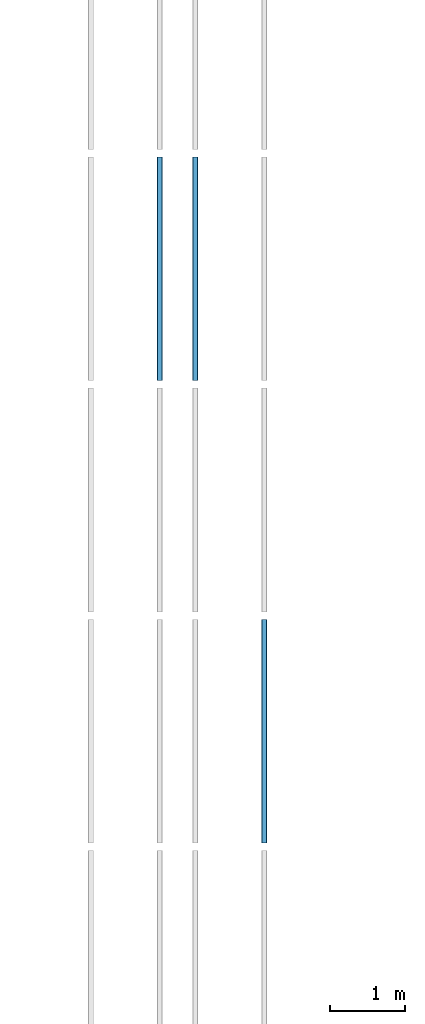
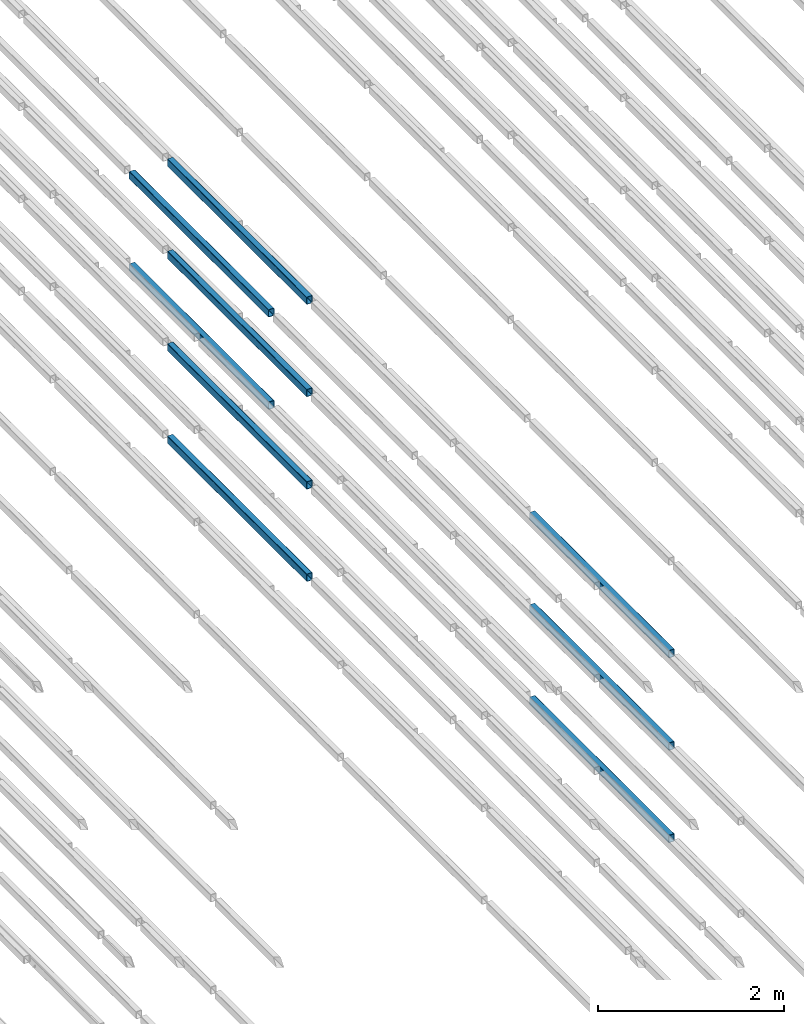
# One storey, part 49 of 290: 9 beams.
"""IFC2X3 building model written with IfcOpenShell, lengths in metres."""

import ifcopenshell
import ifcopenshell.guid

model = None  # the IFC model being written
_history = None  # IfcOwnerHistory: only IFC2X3 demands one
_inside = {}  # id of a spatial element -> (the spatial element, [elements in it])
_under = {}  # id of a project, library or spatial element -> (it, [spatial elements below it])
_declared = {}  # id of a project -> (the project, [libraries it declares])
_typed = {}  # id of a type object -> (the type object, [elements of that type])
_made_of = {}  # id of a material, layer set ... -> (it, [elements and type objects made of it])


def new_model(schema):
    """Start an empty IFC model of exactly this schema.

    Asked for "IFC4X3", IfcOpenShell would pick the latest addendum, in which some entities
    have other attributes; the version numbers below select the first issue.
    IFC2X3 requires an IfcOwnerHistory on every rooted entity: one is made here for all.
    """
    global model, _history
    if schema == "IFC4X3":
        model = ifcopenshell.file(schema_version=(4, 3, 0, 0))
    else:
        model = ifcopenshell.file(schema=schema)
    _inside.clear()
    _under.clear()
    _declared.clear()
    _typed.clear()
    _made_of.clear()
    _history = None
    if model.schema == "IFC2X3":
        org = make("IfcOrganization", Name="unknown")
        user = make(
            "IfcPersonAndOrganization",
            ThePerson=make("IfcPerson", FamilyName="unknown"),
            TheOrganization=org,
        )
        app = make(
            "IfcApplication",
            ApplicationDeveloper=org,
            Version="unknown",
            ApplicationFullName="unknown",
            ApplicationIdentifier="unknown",
        )
        _history = make(
            "IfcOwnerHistory",
            OwningUser=user,
            OwningApplication=app,
            ChangeAction="ADDED",
            CreationDate=0,
        )
    return model


def make(cls, **values):
    """One entity of the class cls with the attributes given. An attribute that is None is left unset."""
    return model.create_entity(
        cls, **{name: value for name, value in values.items() if value is not None}
    )


def entity(cls, *values):
    """Any entity or typed value of the class cls, its attributes in the order of the schema. None: left unset."""
    e = model.create_entity(cls)
    for i, value in enumerate(values):
        if value is not None:
            e[i] = value
    return e


def rooted(cls, **values):
    """An entity with a GlobalId (a new one), such as an element, a storey or a relation."""
    return make(cls, GlobalId=ifcopenshell.guid.new(), OwnerHistory=_history, **values)


def si_unit(unit_type, name, prefix=None):
    """IfcSIUnit, for example si_unit("LENGTHUNIT", "METRE", prefix="MILLI")."""
    return make("IfcSIUnit", UnitType=unit_type, Prefix=prefix, Name=name)


def converted_unit(unit_type, name, factor, base, dimensions=None, offset=None):
    """IfcConversionBasedUnit, such as the inch: factor (a typed value) times the base unit."""
    return make(
        "IfcConversionBasedUnit"
        if offset is None
        else "IfcConversionBasedUnitWithOffset",
        ConversionOffset=offset,
        Dimensions=None
        if dimensions is None
        else entity("IfcDimensionalExponents", *dimensions),
        UnitType=unit_type,
        Name=name,
        ConversionFactor=make(
            "IfcMeasureWithUnit", ValueComponent=factor, UnitComponent=base
        ),
    )


def derived_unit(unit_type, elements):
    """IfcDerivedUnit: a product of units, each with its exponent."""
    return make(
        "IfcDerivedUnit",
        Elements=[
            make("IfcDerivedUnitElement", Unit=unit, Exponent=power)
            for unit, power in elements
        ],
        UnitType=unit_type,
    )


def assignment(units):
    """IfcUnitAssignment: the units of a project."""
    return None if units is None else make("IfcUnitAssignment", Units=units)


def point(xyz):
    """IfcCartesianPoint."""
    return None if xyz is None else make("IfcCartesianPoint", Coordinates=xyz)


def direction(xyz):
    """IfcDirection."""
    return None if xyz is None else make("IfcDirection", DirectionRatios=xyz)


def frame(location, z_axis=None, x_axis=None):
    """IfcAxis2Placement3D, a coordinate frame: its origin and axes. An axis left out is left unset."""
    return make(
        "IfcAxis2Placement3D",
        Location=point(location),
        Axis=direction(z_axis),
        RefDirection=direction(x_axis),
    )


def frame_2d(location, x_axis=None):
    """IfcAxis2Placement2D, a coordinate frame in the plane: its origin and x axis."""
    return make(
        "IfcAxis2Placement2D", Location=point(location), RefDirection=direction(x_axis)
    )


def origin():
    """The frame at (0, 0, 0) with its axes left unset."""
    return frame((0.0, 0.0, 0.0))


def place(relative_to, where):
    """IfcLocalPlacement: puts the frame where relative to a parent placement (None: the world)."""
    return make(
        "IfcLocalPlacement", PlacementRelTo=relative_to, RelativePlacement=where
    )


def context(
    kind, dimensions, precision=None, world=None, true_north=None, identifier=None
):
    """IfcGeometricRepresentationContext, for example the 3D "Model" context."""
    return make(
        "IfcGeometricRepresentationContext",
        ContextIdentifier=identifier,
        ContextType=kind,
        CoordinateSpaceDimension=dimensions,
        Precision=precision,
        WorldCoordinateSystem=world,
        TrueNorth=true_north,
    )


def subcontext(parent, identifier, kind, view, scale=None):
    """IfcGeometricRepresentationSubContext, for example "Body" below "Model"."""
    return make(
        "IfcGeometricRepresentationSubContext",
        ContextIdentifier=identifier,
        ContextType=kind,
        ParentContext=parent,
        TargetScale=scale,
        TargetView=view,
    )


def project(units=None, contexts=None):
    """IfcProject with its units and contexts."""
    return rooted(
        "IfcProject",
        Name="project",
        RepresentationContexts=contexts,
        UnitsInContext=assignment(units),
    )


def spatial(cls, under=None, at=None, **own):
    """A site, building, storey or space (cls), placed at a placement, below another one or the project."""
    s = rooted(cls, ObjectPlacement=at, **own)
    if under is not None:
        _under.setdefault(under.id(), (under, []))[1].append(s)
    return s


def polyline(points):
    """IfcPolyline through the points."""
    return make("IfcPolyline", Points=[point(p) for p in points])


def circle_curve(where, radius):
    """IfcCircle in the frame where."""
    return make("IfcCircle", Position=where, Radius=radius)


def parameter(value):
    """IfcParameterValue: where a trimmed curve begins or ends, as a parameter of its basis curve."""
    return model.create_entity("IfcParameterValue", value)


def trimmed(basis, trim1, trim2, sense, master):
    """IfcTrimmedCurve: the piece of a basis curve between two trims."""
    return make(
        "IfcTrimmedCurve",
        BasisCurve=basis,
        Trim1=trim1,
        Trim2=trim2,
        SenseAgreement=sense,
        MasterRepresentation=master,
    )


def segment(curve, same_sense, transition):
    """IfcCompositeCurveSegment."""
    return make(
        "IfcCompositeCurveSegment",
        Transition=transition,
        SameSense=same_sense,
        ParentCurve=curve,
    )


def composite_curve(segments, self_intersect=None):
    """IfcCompositeCurve: segments joined end to end."""
    return make("IfcCompositeCurve", Segments=segments, SelfIntersect=self_intersect)


def outline(outer, holes=None, kind="AREA"):
    """IfcArbitraryClosedProfileDef: a profile drawn as a closed curve; with holes, ...WithVoids."""
    if holes is None:
        return make("IfcArbitraryClosedProfileDef", ProfileType=kind, OuterCurve=outer)
    return make(
        "IfcArbitraryProfileDefWithVoids",
        ProfileType=kind,
        OuterCurve=outer,
        InnerCurves=holes,
    )


def extrude(swept, where, along, depth):
    """IfcExtrudedAreaSolid: the profile swept, set in the frame where, extruded along a direction by depth."""
    return make(
        "IfcExtrudedAreaSolid",
        SweptArea=swept,
        Position=where,
        ExtrudedDirection=direction(along),
        Depth=depth,
    )


def shape(context_of_items, identifier, shape_type, items):
    """IfcShapeRepresentation: the items that make up one representation, for example the "Body"."""
    return make(
        "IfcShapeRepresentation",
        ContextOfItems=context_of_items,
        RepresentationIdentifier=identifier,
        RepresentationType=shape_type,
        Items=items,
    )


def material(Name=None, Category=None):
    """IfcMaterial."""
    return make("IfcMaterial", Name=Name, Category=Category)


def made_of(thing, what):
    """Note that an element or type object is made of a material, layer set ...; save() writes the relation."""
    if what is not None:
        _made_of.setdefault(what.id(), (what, []))[1].append(thing)
    return thing


def type_object(cls, material=None, **own):
    """A type object (cls), such as IfcWallType, which elements share."""
    return made_of(rooted(cls, **own), material)


def element(
    cls,
    number,
    at=None,
    inside=None,
    cuts=None,
    type_object=None,
    material=None,
    context=None,
    identifier="Body",
    shape_type=None,
    held_by="IfcProductDefinitionShape",
    body=None,
    shapes=None,
    **own,
):
    """One element of the class cls, such as IfcWall. Its Tag is "e" and its number.

    at: its placement. inside: the storey or other place that contains it. cuts: it is an
    opening in that element (IfcRelVoidsElement). A single representation is given by context,
    identifier, shape_type and body (its items); several are given by shapes. held_by: the class
    of the entity that holds the representations. save() writes the other relations.
    """
    e = rooted(cls, Tag="e%d" % number, ObjectPlacement=at, **own)
    if body is not None:
        shapes = [shape(context, identifier, shape_type, body)]
    if shapes is not None:
        e.Representation = make(held_by, Representations=shapes)
    if inside is not None:
        _inside.setdefault(inside.id(), (inside, []))[1].append(e)
    if cuts is not None:
        rooted(
            "IfcRelVoidsElement", RelatingBuildingElement=cuts, RelatedOpeningElement=e
        )
    if type_object is not None:
        _typed.setdefault(type_object.id(), (type_object, []))[1].append(e)
    return made_of(e, material)


def aggregate(whole, parts):
    """IfcRelAggregates: a whole, such as a stair, and the parts it consists of."""
    return rooted("IfcRelAggregates", RelatingObject=whole, RelatedObjects=parts)


def save(model, path):
    """Write the relations noted so far, then the file.

    IfcRelAggregates (storeys below a building ...), IfcRelContainedInSpatialStructure (elements
    in a storey), IfcRelDefinesByType, IfcRelAssociatesMaterial and IfcRelDeclares: one each for
    every whole, place, type object, material and project.
    """
    for whole, parts in _under.values():
        aggregate(whole, parts)
    for where, things in _inside.values():
        rooted(
            "IfcRelContainedInSpatialStructure",
            RelatedElements=things,
            RelatingStructure=where,
        )
    for kind, things in _typed.values():
        rooted("IfcRelDefinesByType", RelatedObjects=things, RelatingType=kind)
    for what, things in _made_of.values():
        rooted("IfcRelAssociatesMaterial", RelatedObjects=things, RelatingMaterial=what)
    for by, libraries in _declared.values():
        rooted("IfcRelDeclares", RelatingContext=by, RelatedDefinitions=libraries)
    model.write(path)


model = new_model("IFC2X3")

# Units and contexts
model_context = context("Model", 3, precision=1e-05, world=origin(), true_north=direction((6.12303176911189e-17, 1.0)))
body_context = subcontext(model_context, "Body", "Model", "MODEL_VIEW")
ifc_project = project(units=[si_unit("LENGTHUNIT", "METRE"), si_unit("AREAUNIT", "SQUARE_METRE"), si_unit("VOLUMEUNIT", "CUBIC_METRE"), converted_unit("PLANEANGLEUNIT", "DEGREE", entity("IfcRatioMeasure", 0.0174532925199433), si_unit("PLANEANGLEUNIT", "RADIAN"), dimensions=[0, 0, 0, 0, 0, 0, 0]), si_unit("MASSUNIT", "GRAM", prefix="KILO"), derived_unit("MASSDENSITYUNIT", [(si_unit("MASSUNIT", "GRAM", prefix="KILO"), 1), (si_unit("LENGTHUNIT", "METRE"), -3)]), derived_unit("MOMENTOFINERTIAUNIT", [(si_unit("LENGTHUNIT", "METRE"), 4)]), si_unit("TIMEUNIT", "SECOND"), si_unit("FREQUENCYUNIT", "HERTZ"), si_unit("THERMODYNAMICTEMPERATUREUNIT", "DEGREE_CELSIUS"), derived_unit("THERMALTRANSMITTANCEUNIT", [(si_unit("MASSUNIT", "GRAM", prefix="KILO"), 1), (si_unit("THERMODYNAMICTEMPERATUREUNIT", "KELVIN"), -1), (si_unit("TIMEUNIT", "SECOND"), -3)]), derived_unit("VOLUMETRICFLOWRATEUNIT", [(si_unit("LENGTHUNIT", "METRE"), 3), (si_unit("TIMEUNIT", "SECOND"), -1)]), si_unit("ELECTRICCURRENTUNIT", "AMPERE"), si_unit("ELECTRICVOLTAGEUNIT", "VOLT"), si_unit("POWERUNIT", "WATT"), si_unit("FORCEUNIT", "NEWTON", prefix="KILO"), si_unit("ILLUMINANCEUNIT", "LUX"), si_unit("LUMINOUSFLUXUNIT", "LUMEN"), si_unit("LUMINOUSINTENSITYUNIT", "CANDELA"), derived_unit("USERDEFINED", [(si_unit("MASSUNIT", "GRAM", prefix="KILO"), -1), (si_unit("LENGTHUNIT", "METRE"), -2), (si_unit("TIMEUNIT", "SECOND"), 3), (si_unit("LUMINOUSFLUXUNIT", "LUMEN"), 1)]), derived_unit("LINEARVELOCITYUNIT", [(si_unit("LENGTHUNIT", "METRE"), 1), (si_unit("TIMEUNIT", "SECOND"), -1)]), si_unit("PRESSUREUNIT", "PASCAL"), derived_unit("USERDEFINED", [(si_unit("LENGTHUNIT", "METRE"), -2), (si_unit("MASSUNIT", "GRAM", prefix="KILO"), 1), (si_unit("TIMEUNIT", "SECOND"), -2)]), derived_unit("LINEARFORCEUNIT", [(si_unit("MASSUNIT", "GRAM", prefix="KILO"), 1), (si_unit("LENGTHUNIT", "METRE"), 1), (si_unit("TIMEUNIT", "SECOND"), -2), (si_unit("LENGTHUNIT", "METRE"), -1)]), derived_unit("PLANARFORCEUNIT", [(si_unit("MASSUNIT", "GRAM", prefix="KILO"), 1), (si_unit("LENGTHUNIT", "METRE"), 1), (si_unit("TIMEUNIT", "SECOND"), -2), (si_unit("LENGTHUNIT", "METRE"), -2)])], contexts=[model_context])

# Site, building, storey
site_placement = place(None, origin())
site = spatial("IfcSite", under=ifc_project, at=site_placement, Name="Default", CompositionType="ELEMENT")
building_placement = place(site_placement, origin())
building = spatial("IfcBuilding", under=site, at=building_placement, CompositionType="ELEMENT")
storey_placement = place(building_placement, frame((0.0, 0.0, 4.0)))
storey = spatial("IfcBuildingStorey", under=building, at=storey_placement, Name="01_OG", CompositionType="ELEMENT", Elevation=4.0)

# Beams
ifc_material = material(Name="Metall - Baustahl S235 blau")
beam_type = type_object("IfcBeamType", Name="RHS Träger (EN 10219-2):RHS 100 x 75 x 5", PredefinedType="NOTDEFINED")
beam_1_placement = place(storey_placement, frame((-194.165111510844, 30.248088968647, -1.2), z_axis=(0.0, 0.0, 1.0), x_axis=(0.0, 1.0, 0.0)))
element("IfcBeam", 1, at=beam_1_placement, inside=storey, type_object=beam_type, material=ifc_material, Name="RHS Träger (EN 10219-2):RHS 100 x 75 x 5", ObjectType="RHS Träger (EN 10219-2):RHS 100 x 75 x 5", context=body_context, shape_type="SweptSolid", body=[
    extrude(outline(composite_curve([segment(polyline([(-0.0400000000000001, -0.0374999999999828), (0.0400000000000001, -0.0374999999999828)]), True, "CONTINUOUS"), segment(trimmed(circle_curve(frame_2d((0.0400000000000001, -0.0274999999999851), x_axis=(0.0, 1.0)), 0.01), [parameter(180.0)], [parameter(270.0)], True, "PARAMETER"), True, "CONTINUOUS"), segment(polyline([(0.05, -0.0274999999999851), (0.05, 0.0274999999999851)]), True, "CONTINUOUS"), segment(trimmed(circle_curve(frame_2d((0.0400000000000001, 0.0274999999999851), x_axis=(0.0, 1.0)), 0.01), [parameter(270.0)], [parameter(4.07110999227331e-13)], True, "PARAMETER"), True, "CONTINUOUS"), segment(polyline([(0.0400000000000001, 0.0375000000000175), (-0.0400000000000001, 0.0375000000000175)]), True, "CONTINUOUS"), segment(trimmed(circle_curve(frame_2d((-0.0400000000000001, 0.0274999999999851), x_axis=(0.0, 1.0)), 0.01), [parameter(360.0)], [parameter(90.0000000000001)], True, "PARAMETER"), True, "CONTINUOUS"), segment(polyline([(-0.05, 0.0274999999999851), (-0.05, -0.0274999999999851)]), True, "CONTINUOUS"), segment(trimmed(circle_curve(frame_2d((-0.0400000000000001, -0.0274999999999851), x_axis=(0.0, 1.0)), 0.01), [parameter(90.0000000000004)], [parameter(180.0)], True, "PARAMETER"), True, "CONTINUOUS")], self_intersect=False), holes=[composite_curve([segment(trimmed(circle_curve(frame_2d((-0.0400000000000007, 0.0274999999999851), x_axis=(0.0, 1.0)), 0.005), [parameter(360.0)], [parameter(89.9999999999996)], True, "PARAMETER"), False, "CONTINUOUS"), segment(polyline([(-0.0400000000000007, 0.0325000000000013), (0.039999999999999, 0.0325000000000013)]), True, "CONTINUOUS"), segment(trimmed(circle_curve(frame_2d((0.039999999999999, 0.0274999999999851), x_axis=(0.0, 1.0)), 0.005), [parameter(270.0)], [parameter(0.0)], True, "PARAMETER"), False, "CONTINUOUS"), segment(polyline([(0.044999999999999, 0.0274999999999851), (0.044999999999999, -0.0274999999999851)]), True, "CONTINUOUS"), segment(trimmed(circle_curve(frame_2d((0.039999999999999, -0.0274999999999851), x_axis=(0.0, 1.0)), 0.005), [parameter(180.0)], [parameter(269.999999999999)], True, "PARAMETER"), False, "CONTINUOUS"), segment(polyline([(0.039999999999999, -0.0325000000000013), (-0.0400000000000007, -0.0325000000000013)]), True, "CONTINUOUS"), segment(trimmed(circle_curve(frame_2d((-0.0400000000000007, -0.0274999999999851), x_axis=(0.0, 1.0)), 0.005), [parameter(90.0000000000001)], [parameter(180.0)], True, "PARAMETER"), False, "CONTINUOUS"), segment(polyline([(-0.0450000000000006, -0.0274999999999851), (-0.0450000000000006, 0.0274999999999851)]), True, "CONTINUOUS")], self_intersect=False)]), frame((9.99999999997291e-05, -0.0375000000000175, -0.0500000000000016), z_axis=(1.0, 0.0, 0.0), x_axis=(0.0, 0.0, -1.0)), (0.0, 0.0, 1.0), 2.9998),
])
beam_2_placement = place(storey_placement, frame((-194.165111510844, 30.248088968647, 0.0150000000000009), z_axis=(0.0, 0.0, 1.0), x_axis=(0.0, 1.0, 0.0)))
element("IfcBeam", 2, at=beam_2_placement, inside=storey, type_object=beam_type, material=ifc_material, Name="RHS Träger (EN 10219-2):RHS 100 x 75 x 5", ObjectType="RHS Träger (EN 10219-2):RHS 100 x 75 x 5", context=body_context, shape_type="SweptSolid", body=[
    extrude(outline(composite_curve([segment(polyline([(-0.0400000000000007, -0.0374999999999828), (0.0399999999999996, -0.0374999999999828)]), True, "CONTINUOUS"), segment(trimmed(circle_curve(frame_2d((0.0399999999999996, -0.0274999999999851), x_axis=(0.0, 1.0)), 0.01), [parameter(180.0)], [parameter(270.0)], True, "PARAMETER"), True, "CONTINUOUS"), segment(polyline([(0.0499999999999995, -0.0274999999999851), (0.0499999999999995, 0.0274999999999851)]), True, "CONTINUOUS"), segment(trimmed(circle_curve(frame_2d((0.0399999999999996, 0.0274999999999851), x_axis=(0.0, 1.0)), 0.01), [parameter(270.0)], [parameter(4.07110999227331e-13)], True, "PARAMETER"), True, "CONTINUOUS"), segment(polyline([(0.0399999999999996, 0.0375000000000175), (-0.0400000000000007, 0.0375000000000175)]), True, "CONTINUOUS"), segment(trimmed(circle_curve(frame_2d((-0.0400000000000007, 0.0274999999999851), x_axis=(0.0, 1.0)), 0.01), [parameter(360.0)], [parameter(90.0000000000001)], True, "PARAMETER"), True, "CONTINUOUS"), segment(polyline([(-0.0500000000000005, 0.0274999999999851), (-0.0500000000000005, -0.0274999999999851)]), True, "CONTINUOUS"), segment(trimmed(circle_curve(frame_2d((-0.0400000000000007, -0.0274999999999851), x_axis=(0.0, 1.0)), 0.01), [parameter(90.0000000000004)], [parameter(180.0)], True, "PARAMETER"), True, "CONTINUOUS")], self_intersect=False), holes=[composite_curve([segment(trimmed(circle_curve(frame_2d((-0.0400000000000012, 0.0274999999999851), x_axis=(0.0, 1.0)), 0.005), [parameter(360.0)], [parameter(89.9999999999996)], True, "PARAMETER"), False, "CONTINUOUS"), segment(polyline([(-0.0400000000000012, 0.0325000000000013), (0.0399999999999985, 0.0325000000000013)]), True, "CONTINUOUS"), segment(trimmed(circle_curve(frame_2d((0.0399999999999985, 0.0274999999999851), x_axis=(0.0, 1.0)), 0.005), [parameter(270.0)], [parameter(0.0)], True, "PARAMETER"), False, "CONTINUOUS"), segment(polyline([(0.0449999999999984, 0.0274999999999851), (0.0449999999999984, -0.0274999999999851)]), True, "CONTINUOUS"), segment(trimmed(circle_curve(frame_2d((0.0399999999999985, -0.0274999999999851), x_axis=(0.0, 1.0)), 0.005), [parameter(180.0)], [parameter(269.999999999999)], True, "PARAMETER"), False, "CONTINUOUS"), segment(polyline([(0.0399999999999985, -0.0325000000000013), (-0.0400000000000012, -0.0325000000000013)]), True, "CONTINUOUS"), segment(trimmed(circle_curve(frame_2d((-0.0400000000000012, -0.0274999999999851), x_axis=(0.0, 1.0)), 0.005), [parameter(90.0000000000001)], [parameter(180.0)], True, "PARAMETER"), False, "CONTINUOUS"), segment(polyline([(-0.0450000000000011, -0.0274999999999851), (-0.0450000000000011, 0.0274999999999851)]), True, "CONTINUOUS")], self_intersect=False)]), frame((9.99999999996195e-05, -0.0375000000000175, -0.0500000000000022), z_axis=(1.0, 0.0, 0.0), x_axis=(0.0, 0.0, -1.0)), (0.0, 0.0, 1.0), 2.9998),
])
beam_3_placement = place(storey_placement, frame((-194.165111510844, 30.248088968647, 1.23), z_axis=(0.0, 0.0, 1.0), x_axis=(0.0, 1.0, 0.0)))
element("IfcBeam", 3, at=beam_3_placement, inside=storey, type_object=beam_type, material=ifc_material, Name="RHS Träger (EN 10219-2):RHS 100 x 75 x 5", ObjectType="RHS Träger (EN 10219-2):RHS 100 x 75 x 5", context=body_context, shape_type="SweptSolid", body=[
    extrude(outline(composite_curve([segment(polyline([(-0.0399999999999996, -0.0374999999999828), (0.0399999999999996, -0.0374999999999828)]), True, "CONTINUOUS"), segment(trimmed(circle_curve(frame_2d((0.0399999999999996, -0.0274999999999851), x_axis=(0.0, 1.0)), 0.01), [parameter(180.0)], [parameter(270.0)], True, "PARAMETER"), True, "CONTINUOUS"), segment(polyline([(0.0500000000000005, -0.0274999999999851), (0.0500000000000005, 0.0274999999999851)]), True, "CONTINUOUS"), segment(trimmed(circle_curve(frame_2d((0.0399999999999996, 0.0274999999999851), x_axis=(0.0, 1.0)), 0.01), [parameter(270.0)], [parameter(4.07110999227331e-13)], True, "PARAMETER"), True, "CONTINUOUS"), segment(polyline([(0.0399999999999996, 0.0375000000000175), (-0.0399999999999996, 0.0375000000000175)]), True, "CONTINUOUS"), segment(trimmed(circle_curve(frame_2d((-0.0399999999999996, 0.0274999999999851), x_axis=(0.0, 1.0)), 0.01), [parameter(360.0)], [parameter(90.0000000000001)], True, "PARAMETER"), True, "CONTINUOUS"), segment(polyline([(-0.0499999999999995, 0.0274999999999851), (-0.0499999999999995, -0.0274999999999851)]), True, "CONTINUOUS"), segment(trimmed(circle_curve(frame_2d((-0.0399999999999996, -0.0274999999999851), x_axis=(0.0, 1.0)), 0.01), [parameter(90.0000000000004)], [parameter(180.0)], True, "PARAMETER"), True, "CONTINUOUS")], self_intersect=False), holes=[composite_curve([segment(trimmed(circle_curve(frame_2d((-0.0400000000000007, 0.0274999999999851), x_axis=(0.0, 1.0)), 0.005), [parameter(360.0)], [parameter(89.9999999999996)], True, "PARAMETER"), False, "CONTINUOUS"), segment(polyline([(-0.0400000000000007, 0.0325000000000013), (0.0399999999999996, 0.0325000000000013)]), True, "CONTINUOUS"), segment(trimmed(circle_curve(frame_2d((0.0399999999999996, 0.0274999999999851), x_axis=(0.0, 1.0)), 0.005), [parameter(270.0)], [parameter(0.0)], True, "PARAMETER"), False, "CONTINUOUS"), segment(polyline([(0.0449999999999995, 0.0274999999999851), (0.0449999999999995, -0.0274999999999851)]), True, "CONTINUOUS"), segment(trimmed(circle_curve(frame_2d((0.0399999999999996, -0.0274999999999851), x_axis=(0.0, 1.0)), 0.005), [parameter(180.0)], [parameter(269.999999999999)], True, "PARAMETER"), False, "CONTINUOUS"), segment(polyline([(0.0399999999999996, -0.0325000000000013), (-0.0400000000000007, -0.0325000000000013)]), True, "CONTINUOUS"), segment(trimmed(circle_curve(frame_2d((-0.0400000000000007, -0.0274999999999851), x_axis=(0.0, 1.0)), 0.005), [parameter(90.0000000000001)], [parameter(180.0)], True, "PARAMETER"), False, "CONTINUOUS"), segment(polyline([(-0.0450000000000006, -0.0274999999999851), (-0.0450000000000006, 0.0274999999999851)]), True, "CONTINUOUS")], self_intersect=False)]), frame((9.99999999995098e-05, -0.0375000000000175, -0.0500000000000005), z_axis=(1.0, 0.0, 0.0), x_axis=(0.0, 0.0, -1.0)), (0.0, 0.0, 1.0), 2.9998),
])
beam_4_placement = place(storey_placement, frame((-195.565111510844, 36.448088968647, 1.23), z_axis=(0.0, 0.0, 1.0), x_axis=(0.0, 1.0, 0.0)))
element("IfcBeam", 4, at=beam_4_placement, inside=storey, type_object=beam_type, material=ifc_material, Name="RHS Träger (EN 10219-2):RHS 100 x 75 x 5", ObjectType="RHS Träger (EN 10219-2):RHS 100 x 75 x 5", context=body_context, shape_type="SweptSolid", body=[
    extrude(outline(composite_curve([segment(polyline([(-0.0399999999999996, -0.0374999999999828), (0.0399999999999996, -0.0374999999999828)]), True, "CONTINUOUS"), segment(trimmed(circle_curve(frame_2d((0.0399999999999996, -0.0274999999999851), x_axis=(0.0, 1.0)), 0.01), [parameter(180.0)], [parameter(270.0)], True, "PARAMETER"), True, "CONTINUOUS"), segment(polyline([(0.0500000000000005, -0.0274999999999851), (0.0500000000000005, 0.0274999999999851)]), True, "CONTINUOUS"), segment(trimmed(circle_curve(frame_2d((0.0399999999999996, 0.0274999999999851), x_axis=(0.0, 1.0)), 0.01), [parameter(270.0)], [parameter(4.07110999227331e-13)], True, "PARAMETER"), True, "CONTINUOUS"), segment(polyline([(0.0399999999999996, 0.0375000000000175), (-0.0399999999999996, 0.0375000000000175)]), True, "CONTINUOUS"), segment(trimmed(circle_curve(frame_2d((-0.0399999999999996, 0.0274999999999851), x_axis=(0.0, 1.0)), 0.01), [parameter(360.0)], [parameter(90.0000000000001)], True, "PARAMETER"), True, "CONTINUOUS"), segment(polyline([(-0.0499999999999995, 0.0274999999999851), (-0.0499999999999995, -0.0274999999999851)]), True, "CONTINUOUS"), segment(trimmed(circle_curve(frame_2d((-0.0399999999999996, -0.0274999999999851), x_axis=(0.0, 1.0)), 0.01), [parameter(90.0000000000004)], [parameter(180.0)], True, "PARAMETER"), True, "CONTINUOUS")], self_intersect=False), holes=[composite_curve([segment(trimmed(circle_curve(frame_2d((-0.0400000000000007, 0.0274999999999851), x_axis=(0.0, 1.0)), 0.005), [parameter(360.0)], [parameter(89.9999999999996)], True, "PARAMETER"), False, "CONTINUOUS"), segment(polyline([(-0.0400000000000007, 0.0325000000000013), (0.0399999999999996, 0.0325000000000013)]), True, "CONTINUOUS"), segment(trimmed(circle_curve(frame_2d((0.0399999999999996, 0.0274999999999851), x_axis=(0.0, 1.0)), 0.005), [parameter(270.0)], [parameter(0.0)], True, "PARAMETER"), False, "CONTINUOUS"), segment(polyline([(0.0449999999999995, 0.0274999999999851), (0.0449999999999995, -0.0274999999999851)]), True, "CONTINUOUS"), segment(trimmed(circle_curve(frame_2d((0.0399999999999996, -0.0274999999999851), x_axis=(0.0, 1.0)), 0.005), [parameter(180.0)], [parameter(269.999999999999)], True, "PARAMETER"), False, "CONTINUOUS"), segment(polyline([(0.0399999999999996, -0.0325000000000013), (-0.0400000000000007, -0.0325000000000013)]), True, "CONTINUOUS"), segment(trimmed(circle_curve(frame_2d((-0.0400000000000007, -0.0274999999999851), x_axis=(0.0, 1.0)), 0.005), [parameter(90.0000000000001)], [parameter(180.0)], True, "PARAMETER"), False, "CONTINUOUS"), segment(polyline([(-0.0450000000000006, -0.0274999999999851), (-0.0450000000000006, 0.0274999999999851)]), True, "CONTINUOUS")], self_intersect=False)]), frame((0.000100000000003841, -0.0375000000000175, -0.0500000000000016), z_axis=(1.0, 0.0, 0.0), x_axis=(0.0, 0.0, -1.0)), (0.0, 0.0, 1.0), 2.9998),
])
beam_5_placement = place(storey_placement, frame((-195.565111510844, 36.448088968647, 2.445), z_axis=(0.0, 0.0, 1.0), x_axis=(0.0, 1.0, 0.0)))
element("IfcBeam", 5, at=beam_5_placement, inside=storey, type_object=beam_type, material=ifc_material, Name="RHS Träger (EN 10219-2):RHS 100 x 75 x 5", ObjectType="RHS Träger (EN 10219-2):RHS 100 x 75 x 5", context=body_context, shape_type="SweptSolid", body=[
    extrude(outline(composite_curve([segment(polyline([(-0.0399999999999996, -0.0374999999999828), (0.0399999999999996, -0.0374999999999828)]), True, "CONTINUOUS"), segment(trimmed(circle_curve(frame_2d((0.0399999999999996, -0.0274999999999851), x_axis=(0.0, 1.0)), 0.01), [parameter(180.0)], [parameter(270.0)], True, "PARAMETER"), True, "CONTINUOUS"), segment(polyline([(0.0500000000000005, -0.0274999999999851), (0.0500000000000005, 0.0274999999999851)]), True, "CONTINUOUS"), segment(trimmed(circle_curve(frame_2d((0.0399999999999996, 0.0274999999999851), x_axis=(0.0, 1.0)), 0.01), [parameter(270.0)], [parameter(4.07110999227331e-13)], True, "PARAMETER"), True, "CONTINUOUS"), segment(polyline([(0.0399999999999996, 0.0375000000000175), (-0.0399999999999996, 0.0375000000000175)]), True, "CONTINUOUS"), segment(trimmed(circle_curve(frame_2d((-0.0399999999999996, 0.0274999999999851), x_axis=(0.0, 1.0)), 0.01), [parameter(360.0)], [parameter(90.0000000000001)], True, "PARAMETER"), True, "CONTINUOUS"), segment(polyline([(-0.0499999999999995, 0.0274999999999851), (-0.0499999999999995, -0.0274999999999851)]), True, "CONTINUOUS"), segment(trimmed(circle_curve(frame_2d((-0.0399999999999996, -0.0274999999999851), x_axis=(0.0, 1.0)), 0.01), [parameter(90.0000000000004)], [parameter(180.0)], True, "PARAMETER"), True, "CONTINUOUS")], self_intersect=False), holes=[composite_curve([segment(trimmed(circle_curve(frame_2d((-0.0400000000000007, 0.0274999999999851), x_axis=(0.0, 1.0)), 0.005), [parameter(360.0)], [parameter(89.9999999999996)], True, "PARAMETER"), False, "CONTINUOUS"), segment(polyline([(-0.0400000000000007, 0.0325000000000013), (0.0399999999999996, 0.0325000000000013)]), True, "CONTINUOUS"), segment(trimmed(circle_curve(frame_2d((0.0399999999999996, 0.0274999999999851), x_axis=(0.0, 1.0)), 0.005), [parameter(270.0)], [parameter(0.0)], True, "PARAMETER"), False, "CONTINUOUS"), segment(polyline([(0.0449999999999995, 0.0274999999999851), (0.0449999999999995, -0.0274999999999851)]), True, "CONTINUOUS"), segment(trimmed(circle_curve(frame_2d((0.0399999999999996, -0.0274999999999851), x_axis=(0.0, 1.0)), 0.005), [parameter(180.0)], [parameter(269.999999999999)], True, "PARAMETER"), False, "CONTINUOUS"), segment(polyline([(0.0399999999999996, -0.0325000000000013), (-0.0400000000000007, -0.0325000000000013)]), True, "CONTINUOUS"), segment(trimmed(circle_curve(frame_2d((-0.0400000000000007, -0.0274999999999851), x_axis=(0.0, 1.0)), 0.005), [parameter(90.0000000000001)], [parameter(180.0)], True, "PARAMETER"), False, "CONTINUOUS"), segment(polyline([(-0.0450000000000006, -0.0274999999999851), (-0.0450000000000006, 0.0274999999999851)]), True, "CONTINUOUS")], self_intersect=False)]), frame((0.000100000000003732, -0.0375000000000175, -0.0500000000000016), z_axis=(1.0, 0.0, 0.0), x_axis=(0.0, 0.0, -1.0)), (0.0, 0.0, 1.0), 2.9998),
])
beam_6_placement = place(storey_placement, frame((-195.015111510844, 36.448088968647, -1.2), z_axis=(0.0, 0.0, 1.0), x_axis=(0.0, 1.0, 0.0)))
element("IfcBeam", 6, at=beam_6_placement, inside=storey, type_object=beam_type, material=ifc_material, Name="RHS Träger (EN 10219-2):RHS 100 x 75 x 5", ObjectType="RHS Träger (EN 10219-2):RHS 100 x 75 x 5", context=body_context, shape_type="SweptSolid", body=[
    extrude(outline(composite_curve([segment(trimmed(circle_curve(frame_2d((-0.0275000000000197, -0.0400000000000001), x_axis=(1.0, 0.0)), 0.01), [parameter(180.0)], [parameter(270.0)], True, "PARAMETER"), True, "CONTINUOUS"), segment(polyline([(-0.0275000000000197, -0.05), (0.0274999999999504, -0.05)]), True, "CONTINUOUS"), segment(trimmed(circle_curve(frame_2d((0.0274999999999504, -0.0400000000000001), x_axis=(1.0, 0.0)), 0.01), [parameter(270.0)], [parameter(5.08888749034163e-14)], True, "PARAMETER"), True, "CONTINUOUS"), segment(polyline([(0.0374999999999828, -0.0400000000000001), (0.0374999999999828, 0.0400000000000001)]), True, "CONTINUOUS"), segment(trimmed(circle_curve(frame_2d((0.0274999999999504, 0.0400000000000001), x_axis=(1.0, 0.0)), 0.01), [parameter(360.0)], [parameter(89.9999999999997)], True, "PARAMETER"), True, "CONTINUOUS"), segment(polyline([(0.0274999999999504, 0.05), (-0.0275000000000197, 0.05)]), True, "CONTINUOUS"), segment(trimmed(circle_curve(frame_2d((-0.0275000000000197, 0.0400000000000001), x_axis=(1.0, 0.0)), 0.01), [parameter(90.0000000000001)], [parameter(180.0)], True, "PARAMETER"), True, "CONTINUOUS"), segment(polyline([(-0.0375000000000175, 0.0400000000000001), (-0.0375000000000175, -0.0400000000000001)]), True, "CONTINUOUS")], self_intersect=False), holes=[composite_curve([segment(polyline([(0.0274999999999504, -0.0450000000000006), (-0.0275000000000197, -0.0450000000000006)]), True, "CONTINUOUS"), segment(trimmed(circle_curve(frame_2d((-0.0275000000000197, -0.0400000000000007), x_axis=(1.0, 0.0)), 0.005), [parameter(180.0)], [parameter(270.0)], True, "PARAMETER"), False, "CONTINUOUS"), segment(polyline([(-0.0325000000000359, -0.0400000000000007), (-0.0325000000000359, 0.039999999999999)]), True, "CONTINUOUS"), segment(trimmed(circle_curve(frame_2d((-0.0275000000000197, 0.039999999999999), x_axis=(1.0, 0.0)), 0.005), [parameter(90.0000000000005)], [parameter(180.0)], True, "PARAMETER"), False, "CONTINUOUS"), segment(polyline([(-0.0275000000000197, 0.044999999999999), (0.0274999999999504, 0.044999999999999)]), True, "CONTINUOUS"), segment(trimmed(circle_curve(frame_2d((0.0274999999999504, 0.039999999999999), x_axis=(1.0, 0.0)), 0.005), [parameter(0.0)], [parameter(90.0000000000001)], True, "PARAMETER"), False, "CONTINUOUS"), segment(polyline([(0.0324999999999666, 0.039999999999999), (0.0324999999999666, -0.0400000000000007)]), True, "CONTINUOUS"), segment(trimmed(circle_curve(frame_2d((0.0274999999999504, -0.0400000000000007), x_axis=(1.0, 0.0)), 0.005), [parameter(270.0)], [parameter(4.07110999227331e-13)], True, "PARAMETER"), False, "CONTINUOUS")], self_intersect=False)]), frame((0.000100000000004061, 0.0374999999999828, -0.0500000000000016), z_axis=(1.0, 0.0, 0.0), x_axis=(0.0, -1.0, 0.0)), (0.0, 0.0, 1.0), 2.9998),
])
beam_7_placement = place(storey_placement, frame((-195.015111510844, 36.448088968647, 0.0150000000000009), z_axis=(0.0, 0.0, 1.0), x_axis=(0.0, 1.0, 0.0)))
element("IfcBeam", 7, at=beam_7_placement, inside=storey, type_object=beam_type, material=ifc_material, Name="RHS Träger (EN 10219-2):RHS 100 x 75 x 5", ObjectType="RHS Träger (EN 10219-2):RHS 100 x 75 x 5", context=body_context, shape_type="SweptSolid", body=[
    extrude(outline(composite_curve([segment(trimmed(circle_curve(frame_2d((-0.0275000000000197, -0.0400000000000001), x_axis=(1.0, 0.0)), 0.01), [parameter(180.0)], [parameter(270.0)], True, "PARAMETER"), True, "CONTINUOUS"), segment(polyline([(-0.0275000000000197, -0.05), (0.0274999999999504, -0.05)]), True, "CONTINUOUS"), segment(trimmed(circle_curve(frame_2d((0.0274999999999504, -0.0400000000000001), x_axis=(1.0, 0.0)), 0.01), [parameter(270.0)], [parameter(5.08888749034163e-14)], True, "PARAMETER"), True, "CONTINUOUS"), segment(polyline([(0.0374999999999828, -0.0400000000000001), (0.0374999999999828, 0.0400000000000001)]), True, "CONTINUOUS"), segment(trimmed(circle_curve(frame_2d((0.0274999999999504, 0.0400000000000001), x_axis=(1.0, 0.0)), 0.01), [parameter(360.0)], [parameter(89.9999999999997)], True, "PARAMETER"), True, "CONTINUOUS"), segment(polyline([(0.0274999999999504, 0.05), (-0.0275000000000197, 0.05)]), True, "CONTINUOUS"), segment(trimmed(circle_curve(frame_2d((-0.0275000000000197, 0.0400000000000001), x_axis=(1.0, 0.0)), 0.01), [parameter(90.0000000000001)], [parameter(180.0)], True, "PARAMETER"), True, "CONTINUOUS"), segment(polyline([(-0.0375000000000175, 0.0400000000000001), (-0.0375000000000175, -0.0400000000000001)]), True, "CONTINUOUS")], self_intersect=False), holes=[composite_curve([segment(polyline([(0.0274999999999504, -0.0450000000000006), (-0.0275000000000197, -0.0450000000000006)]), True, "CONTINUOUS"), segment(trimmed(circle_curve(frame_2d((-0.0275000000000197, -0.0400000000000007), x_axis=(1.0, 0.0)), 0.005), [parameter(180.0)], [parameter(270.0)], True, "PARAMETER"), False, "CONTINUOUS"), segment(polyline([(-0.0325000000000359, -0.0400000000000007), (-0.0325000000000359, 0.039999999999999)]), True, "CONTINUOUS"), segment(trimmed(circle_curve(frame_2d((-0.0275000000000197, 0.039999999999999), x_axis=(1.0, 0.0)), 0.005), [parameter(90.0000000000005)], [parameter(180.0)], True, "PARAMETER"), False, "CONTINUOUS"), segment(polyline([(-0.0275000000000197, 0.044999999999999), (0.0274999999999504, 0.044999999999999)]), True, "CONTINUOUS"), segment(trimmed(circle_curve(frame_2d((0.0274999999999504, 0.039999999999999), x_axis=(1.0, 0.0)), 0.005), [parameter(0.0)], [parameter(90.0000000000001)], True, "PARAMETER"), False, "CONTINUOUS"), segment(polyline([(0.0324999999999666, 0.039999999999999), (0.0324999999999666, -0.0400000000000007)]), True, "CONTINUOUS"), segment(trimmed(circle_curve(frame_2d((0.0274999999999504, -0.0400000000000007), x_axis=(1.0, 0.0)), 0.005), [parameter(270.0)], [parameter(4.07110999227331e-13)], True, "PARAMETER"), False, "CONTINUOUS")], self_intersect=False)]), frame((0.000100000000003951, 0.0374999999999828, -0.0500000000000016), z_axis=(1.0, 0.0, 0.0), x_axis=(0.0, -1.0, 0.0)), (0.0, 0.0, 1.0), 2.9998),
])
beam_8_placement = place(storey_placement, frame((-195.015111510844, 36.448088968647, 1.23), z_axis=(0.0, 0.0, 1.0), x_axis=(0.0, 1.0, 0.0)))
element("IfcBeam", 8, at=beam_8_placement, inside=storey, type_object=beam_type, material=ifc_material, Name="RHS Träger (EN 10219-2):RHS 100 x 75 x 5", ObjectType="RHS Träger (EN 10219-2):RHS 100 x 75 x 5", context=body_context, shape_type="SweptSolid", body=[
    extrude(outline(composite_curve([segment(trimmed(circle_curve(frame_2d((-0.0275000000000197, -0.0399999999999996), x_axis=(1.0, 0.0)), 0.01), [parameter(180.0)], [parameter(270.0)], True, "PARAMETER"), True, "CONTINUOUS"), segment(polyline([(-0.0275000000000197, -0.0499999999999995), (0.0274999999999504, -0.0499999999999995)]), True, "CONTINUOUS"), segment(trimmed(circle_curve(frame_2d((0.0274999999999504, -0.0399999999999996), x_axis=(1.0, 0.0)), 0.01), [parameter(270.0)], [parameter(5.08888749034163e-14)], True, "PARAMETER"), True, "CONTINUOUS"), segment(polyline([(0.0374999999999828, -0.0399999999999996), (0.0374999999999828, 0.0399999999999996)]), True, "CONTINUOUS"), segment(trimmed(circle_curve(frame_2d((0.0274999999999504, 0.0399999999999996), x_axis=(1.0, 0.0)), 0.01), [parameter(360.0)], [parameter(89.9999999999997)], True, "PARAMETER"), True, "CONTINUOUS"), segment(polyline([(0.0274999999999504, 0.0500000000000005), (-0.0275000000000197, 0.0500000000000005)]), True, "CONTINUOUS"), segment(trimmed(circle_curve(frame_2d((-0.0275000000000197, 0.0399999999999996), x_axis=(1.0, 0.0)), 0.01), [parameter(90.0000000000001)], [parameter(180.0)], True, "PARAMETER"), True, "CONTINUOUS"), segment(polyline([(-0.0375000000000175, 0.0399999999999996), (-0.0375000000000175, -0.0399999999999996)]), True, "CONTINUOUS")], self_intersect=False), holes=[composite_curve([segment(polyline([(0.0274999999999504, -0.0450000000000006), (-0.0275000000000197, -0.0450000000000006)]), True, "CONTINUOUS"), segment(trimmed(circle_curve(frame_2d((-0.0275000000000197, -0.0400000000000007), x_axis=(1.0, 0.0)), 0.005), [parameter(180.0)], [parameter(270.0)], True, "PARAMETER"), False, "CONTINUOUS"), segment(polyline([(-0.0325000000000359, -0.0400000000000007), (-0.0325000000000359, 0.0399999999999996)]), True, "CONTINUOUS"), segment(trimmed(circle_curve(frame_2d((-0.0275000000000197, 0.0399999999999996), x_axis=(1.0, 0.0)), 0.005), [parameter(90.0000000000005)], [parameter(180.0)], True, "PARAMETER"), False, "CONTINUOUS"), segment(polyline([(-0.0275000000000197, 0.0449999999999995), (0.0274999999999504, 0.0449999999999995)]), True, "CONTINUOUS"), segment(trimmed(circle_curve(frame_2d((0.0274999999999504, 0.0399999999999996), x_axis=(1.0, 0.0)), 0.005), [parameter(0.0)], [parameter(90.0000000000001)], True, "PARAMETER"), False, "CONTINUOUS"), segment(polyline([(0.0324999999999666, 0.0399999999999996), (0.0324999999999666, -0.0400000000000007)]), True, "CONTINUOUS"), segment(trimmed(circle_curve(frame_2d((0.0274999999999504, -0.0400000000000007), x_axis=(1.0, 0.0)), 0.005), [parameter(270.0)], [parameter(4.07110999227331e-13)], True, "PARAMETER"), False, "CONTINUOUS")], self_intersect=False)]), frame((0.000100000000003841, 0.0374999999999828, -0.0500000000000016), z_axis=(1.0, 0.0, 0.0), x_axis=(0.0, -1.0, 0.0)), (0.0, 0.0, 1.0), 2.9998),
])
beam_9_placement = place(storey_placement, frame((-195.015111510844, 36.448088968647, 2.445), z_axis=(0.0, 0.0, 1.0), x_axis=(0.0, 1.0, 0.0)))
element("IfcBeam", 9, at=beam_9_placement, inside=storey, type_object=beam_type, material=ifc_material, Name="RHS Träger (EN 10219-2):RHS 100 x 75 x 5", ObjectType="RHS Träger (EN 10219-2):RHS 100 x 75 x 5", context=body_context, shape_type="SweptSolid", body=[
    extrude(outline(composite_curve([segment(trimmed(circle_curve(frame_2d((-0.0275000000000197, -0.0399999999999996), x_axis=(1.0, 0.0)), 0.01), [parameter(180.0)], [parameter(270.0)], True, "PARAMETER"), True, "CONTINUOUS"), segment(polyline([(-0.0275000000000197, -0.0499999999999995), (0.0274999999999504, -0.0499999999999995)]), True, "CONTINUOUS"), segment(trimmed(circle_curve(frame_2d((0.0274999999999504, -0.0399999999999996), x_axis=(1.0, 0.0)), 0.01), [parameter(270.0)], [parameter(5.08888749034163e-14)], True, "PARAMETER"), True, "CONTINUOUS"), segment(polyline([(0.0374999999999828, -0.0399999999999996), (0.0374999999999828, 0.0399999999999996)]), True, "CONTINUOUS"), segment(trimmed(circle_curve(frame_2d((0.0274999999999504, 0.0399999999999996), x_axis=(1.0, 0.0)), 0.01), [parameter(360.0)], [parameter(89.9999999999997)], True, "PARAMETER"), True, "CONTINUOUS"), segment(polyline([(0.0274999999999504, 0.0500000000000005), (-0.0275000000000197, 0.0500000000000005)]), True, "CONTINUOUS"), segment(trimmed(circle_curve(frame_2d((-0.0275000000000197, 0.0399999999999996), x_axis=(1.0, 0.0)), 0.01), [parameter(90.0000000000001)], [parameter(180.0)], True, "PARAMETER"), True, "CONTINUOUS"), segment(polyline([(-0.0375000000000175, 0.0399999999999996), (-0.0375000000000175, -0.0399999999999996)]), True, "CONTINUOUS")], self_intersect=False), holes=[composite_curve([segment(polyline([(0.0274999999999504, -0.0450000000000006), (-0.0275000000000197, -0.0450000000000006)]), True, "CONTINUOUS"), segment(trimmed(circle_curve(frame_2d((-0.0275000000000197, -0.0400000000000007), x_axis=(1.0, 0.0)), 0.005), [parameter(180.0)], [parameter(270.0)], True, "PARAMETER"), False, "CONTINUOUS"), segment(polyline([(-0.0325000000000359, -0.0400000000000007), (-0.0325000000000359, 0.0399999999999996)]), True, "CONTINUOUS"), segment(trimmed(circle_curve(frame_2d((-0.0275000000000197, 0.0399999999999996), x_axis=(1.0, 0.0)), 0.005), [parameter(90.0000000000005)], [parameter(180.0)], True, "PARAMETER"), False, "CONTINUOUS"), segment(polyline([(-0.0275000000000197, 0.0449999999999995), (0.0274999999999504, 0.0449999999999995)]), True, "CONTINUOUS"), segment(trimmed(circle_curve(frame_2d((0.0274999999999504, 0.0399999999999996), x_axis=(1.0, 0.0)), 0.005), [parameter(0.0)], [parameter(90.0000000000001)], True, "PARAMETER"), False, "CONTINUOUS"), segment(polyline([(0.0324999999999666, 0.0399999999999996), (0.0324999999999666, -0.0400000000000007)]), True, "CONTINUOUS"), segment(trimmed(circle_curve(frame_2d((0.0274999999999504, -0.0400000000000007), x_axis=(1.0, 0.0)), 0.005), [parameter(270.0)], [parameter(4.07110999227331e-13)], True, "PARAMETER"), False, "CONTINUOUS")], self_intersect=False)]), frame((0.000100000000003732, 0.0374999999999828, -0.0500000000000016), z_axis=(1.0, 0.0, 0.0), x_axis=(0.0, -1.0, 0.0)), (0.0, 0.0, 1.0), 2.9998),
])

save(model, "model.ifc")
